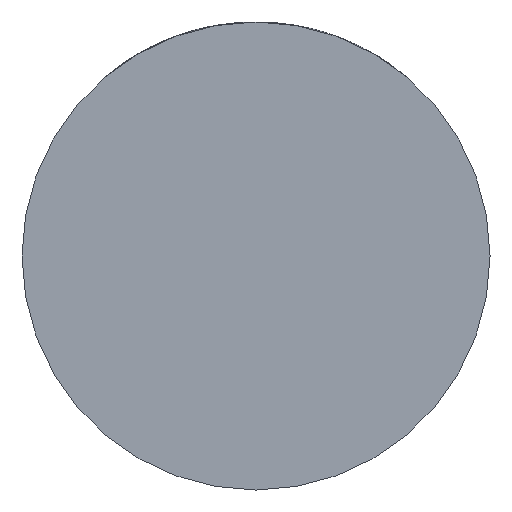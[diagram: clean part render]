
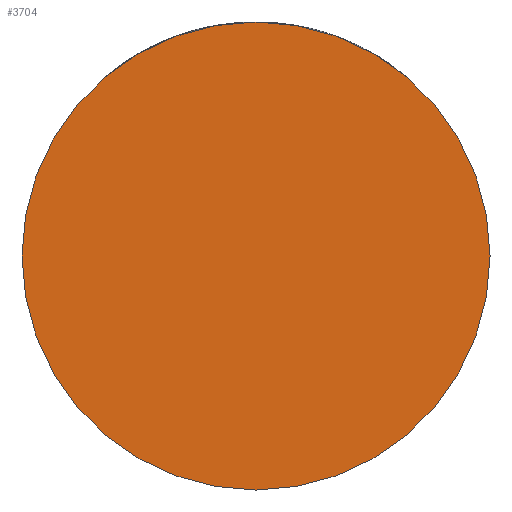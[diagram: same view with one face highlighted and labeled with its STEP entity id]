
A CAD part, front view. The second image highlights one B-rep face of the part: STEP entity #3704.
In plain terms, the highlighted planar face has unit normal (0, -1, 0).
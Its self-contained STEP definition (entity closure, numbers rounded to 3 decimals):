
#61 = CARTESIAN_POINT ( 'NONE',  ( 39., -36., 0. ) ) ;
#143 = DIRECTION ( 'NONE',  ( 0., -1., 0. ) ) ;
#758 = CARTESIAN_POINT ( 'NONE',  ( 0., -36., 0. ) ) ;
#1047 = DIRECTION ( 'NONE',  ( 0., -1., 0. ) ) ;
#1197 = CARTESIAN_POINT ( 'NONE',  ( 0., -36., 0. ) ) ;
#1332 = VERTEX_POINT ( 'NONE', #61 ) ;
#1563 = PLANE ( 'NONE',  #2409 ) ;
#1609 = AXIS2_PLACEMENT_3D ( 'NONE', #758, #143, #3874 ) ;
#2155 = CIRCLE ( 'NONE', #2524, 39. ) ;
#2409 = AXIS2_PLACEMENT_3D ( 'NONE', #1197, #3273, #3960 ) ;
#2524 = AXIS2_PLACEMENT_3D ( 'NONE', #4117, #1047, #2766 ) ;
#2766 = DIRECTION ( 'NONE',  ( 1., 0., 0. ) ) ;
#2843 = VERTEX_POINT ( 'NONE', #4329 ) ;
#3089 = EDGE_CURVE ( 'NONE', #2843, #1332, #2155, .T. ) ;
#3273 = DIRECTION ( 'NONE',  ( 0., -1., 0. ) ) ;
#3285 = CIRCLE ( 'NONE', #1609, 39. ) ;
#3369 = FACE_OUTER_BOUND ( 'NONE', #3603, .T. ) ;
#3579 = ORIENTED_EDGE ( 'NONE', *, *, #3089, .T. ) ;
#3603 = EDGE_LOOP ( 'NONE', ( #3579, #4127 ) ) ;
#3704 = ADVANCED_FACE ( 'NONE', ( #3369 ), #1563, .T. ) ;
#3874 = DIRECTION ( 'NONE',  ( 1., 0., 0. ) ) ;
#3960 = DIRECTION ( 'NONE',  ( 1., 0., 0. ) ) ;
#4117 = CARTESIAN_POINT ( 'NONE',  ( 0., -36., 0. ) ) ;
#4127 = ORIENTED_EDGE ( 'NONE', *, *, #4232, .T. ) ;
#4232 = EDGE_CURVE ( 'NONE', #1332, #2843, #3285, .T. ) ;
#4329 = CARTESIAN_POINT ( 'NONE',  ( -39., -36., 0. ) ) ;
